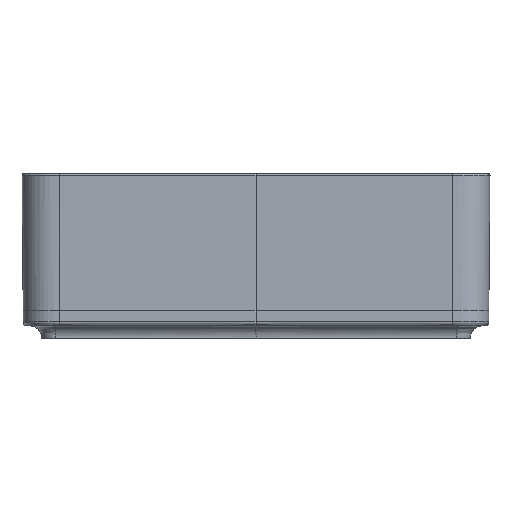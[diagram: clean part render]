
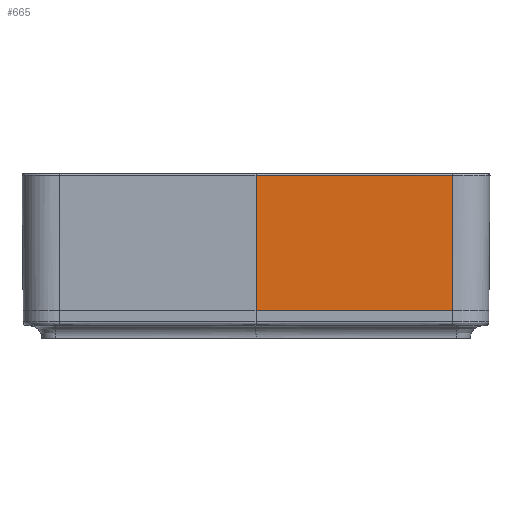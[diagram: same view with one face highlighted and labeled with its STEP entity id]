
A CAD part, front view. The second image highlights one B-rep face of the part: STEP entity #665.
In plain terms, the highlighted planar face has unit normal (0, -1, -0.009).
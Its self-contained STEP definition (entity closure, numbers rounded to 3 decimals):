
#274=PLANE('',#2197);
#342=FACE_OUTER_BOUND('',#841,.T.);
#491=LINE('',#8453,#581);
#492=LINE('',#8456,#582);
#493=LINE('',#8457,#583);
#494=LINE('',#8459,#584);
#581=VECTOR('',#2443,1.);
#582=VECTOR('',#2444,1.);
#583=VECTOR('',#2445,1.);
#584=VECTOR('',#2446,1.);
#665=ADVANCED_FACE('',(#342),#274,.T.);
#841=EDGE_LOOP('',(#1234,#1235,#1236,#1237));
#1234=ORIENTED_EDGE('',*,*,#1922,.F.);
#1235=ORIENTED_EDGE('',*,*,#1923,.T.);
#1236=ORIENTED_EDGE('',*,*,#1924,.T.);
#1237=ORIENTED_EDGE('',*,*,#1925,.T.);
#1591=VERTEX_POINT('',#5866);
#1685=VERTEX_POINT('',#8454);
#1686=VERTEX_POINT('',#8455);
#1687=VERTEX_POINT('',#8458);
#1922=EDGE_CURVE('',#1685,#1686,#491,.T.);
#1923=EDGE_CURVE('',#1685,#1591,#492,.T.);
#1924=EDGE_CURVE('',#1591,#1687,#493,.T.);
#1925=EDGE_CURVE('',#1687,#1686,#494,.T.);
#2197=AXIS2_PLACEMENT_3D('',#8460,#2447,#2448);
#2443=DIRECTION('',(0.,0.009,-1.));
#2444=DIRECTION('',(-1.,0.,0.));
#2445=DIRECTION('',(0.,0.009,-1.));
#2446=DIRECTION('',(1.,0.,0.));
#2447=DIRECTION('',(0.,-1.,-0.009));
#2448=DIRECTION('',(0.,0.009,-1.));
#5866=CARTESIAN_POINT('',(0.,-289.991,-1.009));
#8453=CARTESIAN_POINT('',(155.,-290.,0.));
#8454=CARTESIAN_POINT('',(155.,-289.991,-1.009));
#8455=CARTESIAN_POINT('',(155.,-289.057,-108.));
#8456=CARTESIAN_POINT('',(-155.,-289.991,-1.009));
#8457=CARTESIAN_POINT('',(0.,-290.,0.));
#8458=CARTESIAN_POINT('',(0.,-289.057,-108.));
#8459=CARTESIAN_POINT('',(-155.,-289.057,-108.));
#8460=CARTESIAN_POINT('',(-155.,-290.,0.));
